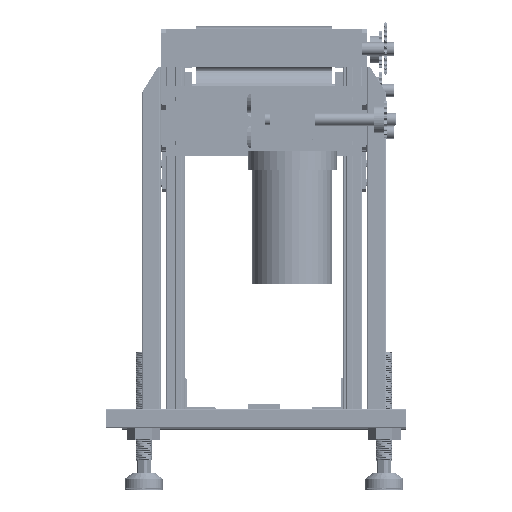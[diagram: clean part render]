
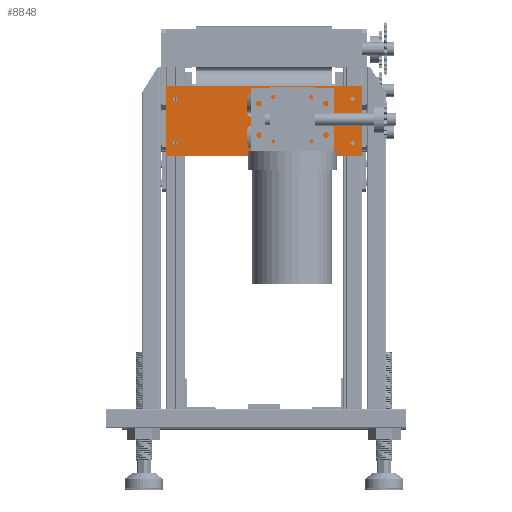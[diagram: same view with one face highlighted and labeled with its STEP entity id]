
A CAD part, top view. The second image highlights one B-rep face of the part: STEP entity #8848.
In plain terms, the highlighted planar face has unit normal (0, 0, 1).
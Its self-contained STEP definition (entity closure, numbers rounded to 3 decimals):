
#5789=PLANE('',#62199);
#6203=FACE_BOUND('',#15740,.T.);
#6204=FACE_BOUND('',#15741,.T.);
#6205=FACE_BOUND('',#15742,.T.);
#6206=FACE_BOUND('',#15743,.T.);
#6207=FACE_BOUND('',#15744,.T.);
#6208=FACE_BOUND('',#15745,.T.);
#6209=FACE_BOUND('',#15746,.T.);
#6210=FACE_BOUND('',#15747,.T.);
#6211=FACE_BOUND('',#15748,.T.);
#8848=ADVANCED_FACE('',(#6203,#6204,#6205,#6206,#6207,#6208,#6209,#6210,
#6211),#5789,.T.);
#15740=EDGE_LOOP('',(#41541,#41542,#41543,#41544));
#15741=EDGE_LOOP('',(#41545,#41546,#41547,#41548));
#15742=EDGE_LOOP('',(#41549,#41550,#41551,#41552));
#15743=EDGE_LOOP('',(#41553,#41554,#41555,#41556));
#15744=EDGE_LOOP('',(#41557,#41558));
#15745=EDGE_LOOP('',(#41559,#41560));
#15746=EDGE_LOOP('',(#41561,#41562));
#15747=EDGE_LOOP('',(#41563,#41564));
#15748=EDGE_LOOP('',(#41565,#41566,#41567,#41568));
#20975=LINE('',#107984,#26576);
#20976=LINE('',#107988,#26577);
#20977=LINE('',#107992,#26578);
#20978=LINE('',#107996,#26579);
#20979=LINE('',#108000,#26580);
#20980=LINE('',#108004,#26581);
#20981=LINE('',#108008,#26582);
#20982=LINE('',#108012,#26583);
#20983=LINE('',#108016,#26584);
#20984=LINE('',#108019,#26585);
#20985=LINE('',#108021,#26586);
#20986=LINE('',#108023,#26587);
#26576=VECTOR('',#74741,1.);
#26577=VECTOR('',#74744,1.);
#26578=VECTOR('',#74747,1.);
#26579=VECTOR('',#74750,1.);
#26580=VECTOR('',#74753,1.);
#26581=VECTOR('',#74756,1.);
#26582=VECTOR('',#74759,1.);
#26583=VECTOR('',#74762,1.);
#26584=VECTOR('',#74769,1.);
#26585=VECTOR('',#74770,1.);
#26586=VECTOR('',#74771,1.);
#26587=VECTOR('',#74772,1.);
#41541=ORIENTED_EDGE('',*,*,#56498,.T.);
#41542=ORIENTED_EDGE('',*,*,#56499,.T.);
#41543=ORIENTED_EDGE('',*,*,#56500,.T.);
#41544=ORIENTED_EDGE('',*,*,#56501,.T.);
#41545=ORIENTED_EDGE('',*,*,#56502,.T.);
#41546=ORIENTED_EDGE('',*,*,#56503,.T.);
#41547=ORIENTED_EDGE('',*,*,#56504,.T.);
#41548=ORIENTED_EDGE('',*,*,#56505,.T.);
#41549=ORIENTED_EDGE('',*,*,#56506,.T.);
#41550=ORIENTED_EDGE('',*,*,#56507,.T.);
#41551=ORIENTED_EDGE('',*,*,#56508,.T.);
#41552=ORIENTED_EDGE('',*,*,#56509,.T.);
#41553=ORIENTED_EDGE('',*,*,#56510,.T.);
#41554=ORIENTED_EDGE('',*,*,#56511,.T.);
#41555=ORIENTED_EDGE('',*,*,#56512,.T.);
#41556=ORIENTED_EDGE('',*,*,#56513,.T.);
#41557=ORIENTED_EDGE('',*,*,#56486,.T.);
#41558=ORIENTED_EDGE('',*,*,#56514,.T.);
#41559=ORIENTED_EDGE('',*,*,#56490,.T.);
#41560=ORIENTED_EDGE('',*,*,#56515,.T.);
#41561=ORIENTED_EDGE('',*,*,#56494,.T.);
#41562=ORIENTED_EDGE('',*,*,#56516,.T.);
#41563=ORIENTED_EDGE('',*,*,#56497,.F.);
#41564=ORIENTED_EDGE('',*,*,#56482,.F.);
#41565=ORIENTED_EDGE('',*,*,#56517,.T.);
#41566=ORIENTED_EDGE('',*,*,#56518,.T.);
#41567=ORIENTED_EDGE('',*,*,#56519,.T.);
#41568=ORIENTED_EDGE('',*,*,#56520,.T.);
#48483=VERTEX_POINT('',#107946);
#48484=VERTEX_POINT('',#107948);
#48487=VERTEX_POINT('',#107955);
#48488=VERTEX_POINT('',#107957);
#48491=VERTEX_POINT('',#107964);
#48492=VERTEX_POINT('',#107966);
#48495=VERTEX_POINT('',#107973);
#48496=VERTEX_POINT('',#107975);
#48497=VERTEX_POINT('',#107982);
#48498=VERTEX_POINT('',#107983);
#48499=VERTEX_POINT('',#107985);
#48500=VERTEX_POINT('',#107987);
#48501=VERTEX_POINT('',#107990);
#48502=VERTEX_POINT('',#107991);
#48503=VERTEX_POINT('',#107993);
#48504=VERTEX_POINT('',#107995);
#48505=VERTEX_POINT('',#107998);
#48506=VERTEX_POINT('',#107999);
#48507=VERTEX_POINT('',#108001);
#48508=VERTEX_POINT('',#108003);
#48509=VERTEX_POINT('',#108006);
#48510=VERTEX_POINT('',#108007);
#48511=VERTEX_POINT('',#108009);
#48512=VERTEX_POINT('',#108011);
#48513=VERTEX_POINT('',#108017);
#48514=VERTEX_POINT('',#108018);
#48515=VERTEX_POINT('',#108020);
#48516=VERTEX_POINT('',#108022);
#56482=EDGE_CURVE('',#48483,#48484,#58629,.T.);
#56486=EDGE_CURVE('',#48488,#48487,#58631,.T.);
#56490=EDGE_CURVE('',#48492,#48491,#58633,.T.);
#56494=EDGE_CURVE('',#48496,#48495,#58635,.T.);
#56497=EDGE_CURVE('',#48484,#48483,#58637,.T.);
#56498=EDGE_CURVE('',#48497,#48498,#58638,.T.);
#56499=EDGE_CURVE('',#48498,#48499,#20975,.T.);
#56500=EDGE_CURVE('',#48499,#48500,#58639,.T.);
#56501=EDGE_CURVE('',#48500,#48497,#20976,.T.);
#56502=EDGE_CURVE('',#48501,#48502,#58640,.T.);
#56503=EDGE_CURVE('',#48502,#48503,#20977,.T.);
#56504=EDGE_CURVE('',#48503,#48504,#58641,.T.);
#56505=EDGE_CURVE('',#48504,#48501,#20978,.T.);
#56506=EDGE_CURVE('',#48505,#48506,#58642,.T.);
#56507=EDGE_CURVE('',#48506,#48507,#20979,.T.);
#56508=EDGE_CURVE('',#48507,#48508,#58643,.T.);
#56509=EDGE_CURVE('',#48508,#48505,#20980,.T.);
#56510=EDGE_CURVE('',#48509,#48510,#58644,.T.);
#56511=EDGE_CURVE('',#48510,#48511,#20981,.T.);
#56512=EDGE_CURVE('',#48511,#48512,#58645,.T.);
#56513=EDGE_CURVE('',#48512,#48509,#20982,.T.);
#56514=EDGE_CURVE('',#48487,#48488,#58646,.T.);
#56515=EDGE_CURVE('',#48491,#48492,#58647,.T.);
#56516=EDGE_CURVE('',#48495,#48496,#58648,.T.);
#56517=EDGE_CURVE('',#48513,#48514,#20983,.T.);
#56518=EDGE_CURVE('',#48514,#48515,#20984,.T.);
#56519=EDGE_CURVE('',#48515,#48516,#20985,.T.);
#56520=EDGE_CURVE('',#48516,#48513,#20986,.T.);
#58629=CIRCLE('',#62174,3.3);
#58631=CIRCLE('',#62177,3.3);
#58633=CIRCLE('',#62180,3.3);
#58635=CIRCLE('',#62183,3.3);
#58637=CIRCLE('',#62186,3.3);
#58638=CIRCLE('',#62188,5.5);
#58639=CIRCLE('',#62189,5.5);
#58640=CIRCLE('',#62190,5.5);
#58641=CIRCLE('',#62191,5.5);
#58642=CIRCLE('',#62192,5.5);
#58643=CIRCLE('',#62193,5.5);
#58644=CIRCLE('',#62194,5.5);
#58645=CIRCLE('',#62195,5.5);
#58646=CIRCLE('',#62196,3.3);
#58647=CIRCLE('',#62197,3.3);
#58648=CIRCLE('',#62198,3.3);
#62174=AXIS2_PLACEMENT_3D('',#107947,#74704,#74705);
#62177=AXIS2_PLACEMENT_3D('',#107956,#74712,#74713);
#62180=AXIS2_PLACEMENT_3D('',#107965,#74720,#74721);
#62183=AXIS2_PLACEMENT_3D('',#107974,#74728,#74729);
#62186=AXIS2_PLACEMENT_3D('',#107979,#74735,#74736);
#62188=AXIS2_PLACEMENT_3D('',#107981,#74739,#74740);
#62189=AXIS2_PLACEMENT_3D('',#107986,#74742,#74743);
#62190=AXIS2_PLACEMENT_3D('',#107989,#74745,#74746);
#62191=AXIS2_PLACEMENT_3D('',#107994,#74748,#74749);
#62192=AXIS2_PLACEMENT_3D('',#107997,#74751,#74752);
#62193=AXIS2_PLACEMENT_3D('',#108002,#74754,#74755);
#62194=AXIS2_PLACEMENT_3D('',#108005,#74757,#74758);
#62195=AXIS2_PLACEMENT_3D('',#108010,#74760,#74761);
#62196=AXIS2_PLACEMENT_3D('',#108013,#74763,#74764);
#62197=AXIS2_PLACEMENT_3D('',#108014,#74765,#74766);
#62198=AXIS2_PLACEMENT_3D('',#108015,#74767,#74768);
#62199=AXIS2_PLACEMENT_3D('',#108024,#74773,#74774);
#74704=DIRECTION('',(0.,0.,1.));
#74705=DIRECTION('',(1.,0.,0.));
#74712=DIRECTION('',(0.,0.,-1.));
#74713=DIRECTION('',(1.,0.,0.));
#74720=DIRECTION('',(0.,0.,-1.));
#74721=DIRECTION('',(1.,0.,0.));
#74728=DIRECTION('',(0.,0.,-1.));
#74729=DIRECTION('',(1.,0.,0.));
#74735=DIRECTION('',(0.,0.,1.));
#74736=DIRECTION('',(1.,0.,0.));
#74739=DIRECTION('',(0.,0.,-1.));
#74740=DIRECTION('',(1.,0.,0.));
#74741=DIRECTION('',(0.,-1.,0.));
#74742=DIRECTION('',(0.,0.,-1.));
#74743=DIRECTION('',(1.,0.,0.));
#74744=DIRECTION('',(0.,1.,0.));
#74745=DIRECTION('',(0.,0.,-1.));
#74746=DIRECTION('',(1.,0.,0.));
#74747=DIRECTION('',(0.,1.,0.));
#74748=DIRECTION('',(0.,0.,-1.));
#74749=DIRECTION('',(1.,0.,0.));
#74750=DIRECTION('',(0.,-1.,0.));
#74751=DIRECTION('',(0.,0.,-1.));
#74752=DIRECTION('',(1.,0.,0.));
#74753=DIRECTION('',(0.,1.,0.));
#74754=DIRECTION('',(0.,0.,-1.));
#74755=DIRECTION('',(1.,0.,0.));
#74756=DIRECTION('',(0.,-1.,0.));
#74757=DIRECTION('',(0.,0.,-1.));
#74758=DIRECTION('',(1.,0.,0.));
#74759=DIRECTION('',(0.,1.,0.));
#74760=DIRECTION('',(0.,0.,-1.));
#74761=DIRECTION('',(1.,0.,0.));
#74762=DIRECTION('',(0.,-1.,0.));
#74763=DIRECTION('',(0.,0.,-1.));
#74764=DIRECTION('',(1.,0.,0.));
#74765=DIRECTION('',(0.,0.,-1.));
#74766=DIRECTION('',(1.,0.,0.));
#74767=DIRECTION('',(0.,0.,-1.));
#74768=DIRECTION('',(1.,0.,0.));
#74769=DIRECTION('',(0.,1.,0.));
#74770=DIRECTION('',(-1.,0.,0.));
#74771=DIRECTION('',(0.,-1.,0.));
#74772=DIRECTION('',(1.,0.,0.));
#74773=DIRECTION('',(0.,0.,1.));
#74774=DIRECTION('',(-1.,0.,0.));
#107946=CARTESIAN_POINT('',(-143.3,-35.,8.));
#107947=CARTESIAN_POINT('',(-140.,-35.,8.));
#107948=CARTESIAN_POINT('',(-136.7,-35.,8.));
#107955=CARTESIAN_POINT('',(-143.3,35.,8.));
#107956=CARTESIAN_POINT('',(-140.,35.,8.));
#107957=CARTESIAN_POINT('',(-136.7,35.,8.));
#107964=CARTESIAN_POINT('',(136.7,35.,8.));
#107965=CARTESIAN_POINT('',(140.,35.,8.));
#107966=CARTESIAN_POINT('',(143.3,35.,8.));
#107973=CARTESIAN_POINT('',(136.7,-35.,8.));
#107974=CARTESIAN_POINT('',(140.,-35.,8.));
#107975=CARTESIAN_POINT('',(143.3,-35.,8.));
#107979=CARTESIAN_POINT('',(-140.,-35.,8.));
#107981=CARTESIAN_POINT('',(-20.5,37.522,8.));
#107982=CARTESIAN_POINT('',(-26.,37.522,8.));
#107983=CARTESIAN_POINT('',(-15.,37.522,8.));
#107984=CARTESIAN_POINT('',(-15.,0.,8.));
#107985=CARTESIAN_POINT('',(-15.,12.522,8.));
#107986=CARTESIAN_POINT('',(-20.5,12.522,8.));
#107987=CARTESIAN_POINT('',(-26.,12.522,8.));
#107988=CARTESIAN_POINT('',(-26.,0.,8.));
#107989=CARTESIAN_POINT('',(85.5,12.522,8.));
#107990=CARTESIAN_POINT('',(91.,12.522,8.));
#107991=CARTESIAN_POINT('',(80.,12.522,8.));
#107992=CARTESIAN_POINT('',(80.,0.,8.));
#107993=CARTESIAN_POINT('',(80.,37.522,8.));
#107994=CARTESIAN_POINT('',(85.5,37.522,8.));
#107995=CARTESIAN_POINT('',(91.,37.522,8.));
#107996=CARTESIAN_POINT('',(91.,0.,8.));
#107997=CARTESIAN_POINT('',(-20.5,-37.5,8.));
#107998=CARTESIAN_POINT('',(-15.,-37.5,8.));
#107999=CARTESIAN_POINT('',(-26.,-37.5,8.));
#108000=CARTESIAN_POINT('',(-26.,0.,8.));
#108001=CARTESIAN_POINT('',(-26.,-12.5,8.));
#108002=CARTESIAN_POINT('',(-20.5,-12.5,8.));
#108003=CARTESIAN_POINT('',(-15.,-12.5,8.));
#108004=CARTESIAN_POINT('',(-15.,0.,8.));
#108005=CARTESIAN_POINT('',(85.5,-37.5,8.));
#108006=CARTESIAN_POINT('',(91.,-37.5,8.));
#108007=CARTESIAN_POINT('',(80.,-37.5,8.));
#108008=CARTESIAN_POINT('',(80.,0.,8.));
#108009=CARTESIAN_POINT('',(80.,-12.5,8.));
#108010=CARTESIAN_POINT('',(85.5,-12.5,8.));
#108011=CARTESIAN_POINT('',(91.,-12.5,8.));
#108012=CARTESIAN_POINT('',(91.,0.,8.));
#108013=CARTESIAN_POINT('',(-140.,35.,8.));
#108014=CARTESIAN_POINT('',(140.,35.,8.));
#108015=CARTESIAN_POINT('',(140.,-35.,8.));
#108016=CARTESIAN_POINT('',(155.,0.,8.));
#108017=CARTESIAN_POINT('',(155.,-55.,8.));
#108018=CARTESIAN_POINT('',(155.,55.,8.));
#108019=CARTESIAN_POINT('',(0.,55.,8.));
#108020=CARTESIAN_POINT('',(-155.,55.,8.));
#108021=CARTESIAN_POINT('',(-155.,0.,8.));
#108022=CARTESIAN_POINT('',(-155.,-55.,8.));
#108023=CARTESIAN_POINT('',(0.,-55.,8.));
#108024=CARTESIAN_POINT('',(-155.,-55.,8.));
